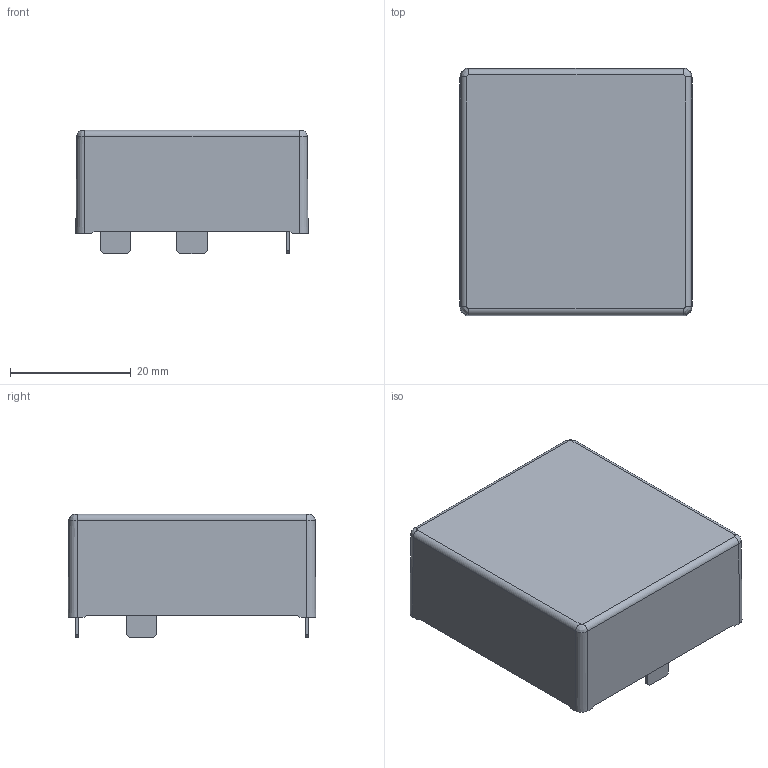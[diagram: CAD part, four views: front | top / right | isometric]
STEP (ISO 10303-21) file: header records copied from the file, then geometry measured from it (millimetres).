
FILE_DESCRIPTION((''),'2;1');
FILE_NAME('SM34SXXXP2GBA','2020-07-14T10:31:29',('youlianqiao'),(''),'CREO PARAMETRIC BY PTC INC, 2019080','CREO PARAMETRIC BY PTC INC, 2019080','');
FILE_SCHEMA(('CONFIG_CONTROL_DESIGN'));
Length unit declared in the file: millimetre
Products named in the file (1): SM34SXXXP2GBA
Bounding box: 38.41 x 41.01 x 20.4 mm (x, y, z)
Volume: 25897.9 mm3; surface area: 8867.3 mm2
Topology: 1 solids, 4 shells, 530 faces, 1544 edges, 1021 vertices
Faces by surface type: plane 361, extrusion 116, cylinder 41, cone 8, bspline 4
Entity records: 18072 total; most frequent: CARTESIAN_POINT 4317, ORIENTED_EDGE 3088, DIRECTION 2356, EDGE_CURVE 1544, VECTOR 1308, LINE 1192, VERTEX_POINT 1021, EDGE_LOOP 573
